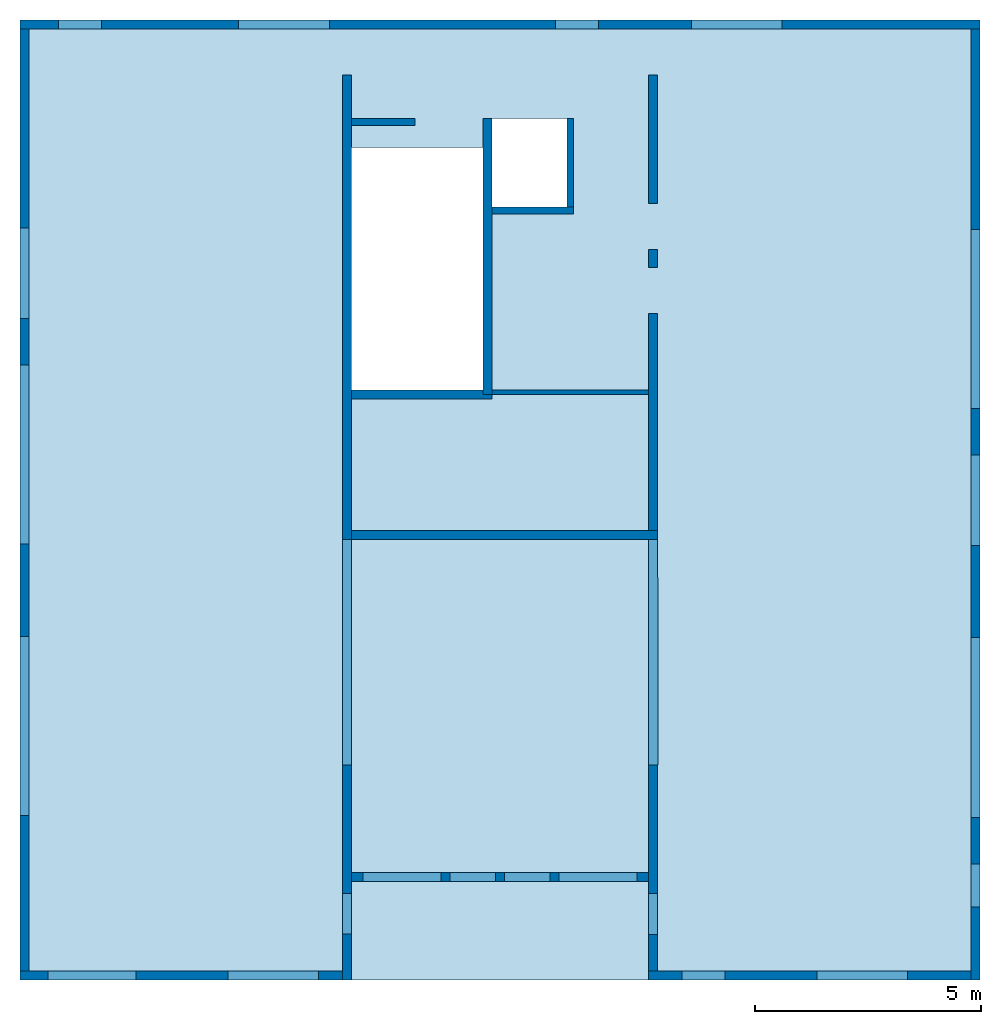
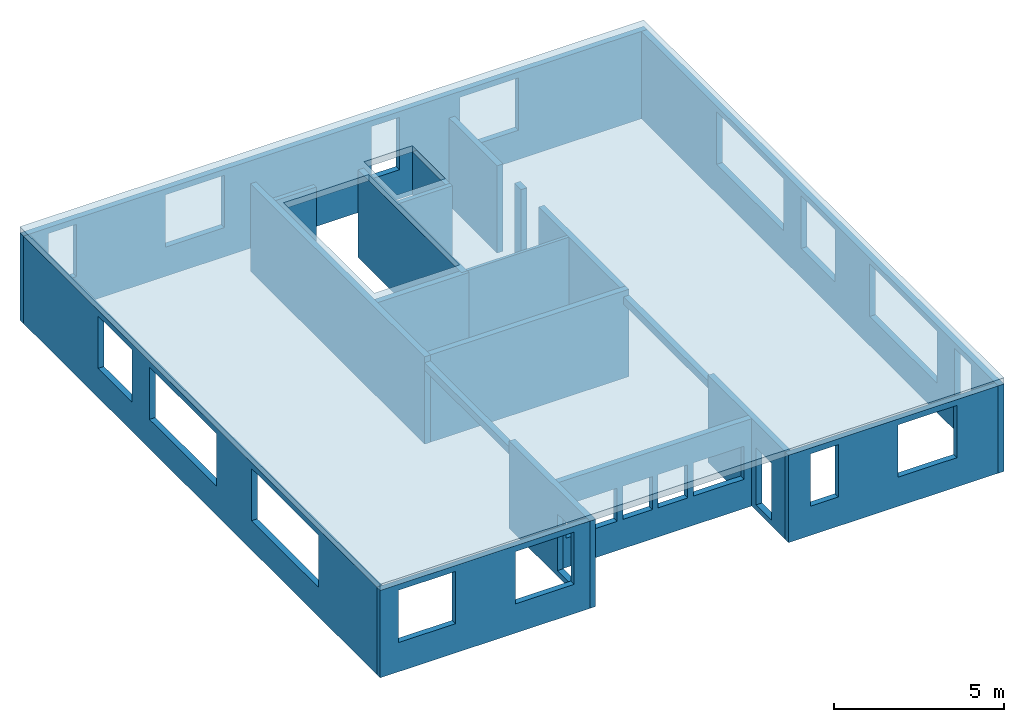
# One storey: 19 walls, 2 beams, 1 slab, 23 openings.
"""IFC2X3 building model written with IfcOpenShell, lengths in millimetres."""

from ifc_helpers import new_model, entity, si_unit, converted_unit, frame, frame_2d, origin, origin_with_axes, place, context, subcontext, project, spatial, polyline, rectangle, outline, extrude, material, layer, layer_set, layer_usage, element, save


model = new_model("IFC2X3")

# Units and contexts
model_context = context("Model", 3, precision=1e-05, world=origin())
body_context = subcontext(model_context, "Body", "Model", "MODEL_VIEW")
ifc_project = project(units=[si_unit("LENGTHUNIT", "METRE", prefix="MILLI"), converted_unit("PLANEANGLEUNIT", "DEGREE", entity("IfcPlaneAngleMeasure", 0.0174532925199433), si_unit("PLANEANGLEUNIT", "RADIAN"), dimensions=[0, 0, 0, 0, 0, 0, 0]), si_unit("AREAUNIT", "SQUARE_METRE"), si_unit("VOLUMEUNIT", "CUBIC_METRE")], contexts=[model_context])

# Building, storey
building_placement = place(None, origin())
building = spatial("IfcBuilding", under=ifc_project, at=building_placement, Name="Bâtiment", CompositionType="ELEMENT")
storey_placement = place(building_placement, frame((0.0, 0.0, 5290.0), z_axis=(0.0, 0.0, 1.0), x_axis=(1.0, 0.0, 0.0)))
storey = spatial("IfcBuildingStorey", under=building, at=storey_placement, Name="1. Etage supérieur", CompositionType="ELEMENT", Elevation=5290.0)

# Beams
ifc_material_1 = material(Name="<Unnamed Material>")
beam_1_placement = place(storey_placement, frame((4880.076271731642, -22184.48916388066, 2460.0), z_axis=(0.0, 0.0, 1.0), x_axis=(0.0001049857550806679, -0.9999999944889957, 0.0)))
element("IfcBeam", 1, at=beam_1_placement, inside=storey, material=ifc_material_1, Name="<Unnamed Element>", context=body_context, shape_type="SweptSolid", body=[
    extrude(rectangle(XDim=270.0, YDim=200.0, at=frame_2d((135.0, -100.0), x_axis=(1.0, 0.0))), frame((0.0, 0.0, 0.0), z_axis=(1.0, 0.0, 0.0), x_axis=(0.0, 0.0, 1.0)), (0.0, 0.0, 1.0), 4978.489400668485),
])
ifc_material_2 = material(Name="<Unnamed Material>")
beam_2_placement = place(storey_placement, frame((11640.23143132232, -22184.15669629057, 2460.0), z_axis=(0.0, 0.0, 1.0), x_axis=(0.0001049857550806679, -0.9999999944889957, 0.0)))
element("IfcBeam", 2, at=beam_2_placement, inside=storey, material=ifc_material_2, Name="<Unnamed Element>", context=body_context, shape_type="SweptSolid", body=[
    extrude(rectangle(XDim=270.0, YDim=199.9999999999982, at=frame_2d((135.0, -99.99999999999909), x_axis=(1.0, 0.0))), frame((0.0, 0.0, 0.0), z_axis=(1.0, 0.0, 0.0), x_axis=(0.0, 0.0, 1.0)), (0.0, 0.0, 1.0), 4978.489400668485),
])

# Slab, openings
ifc_material_3 = material(Name="<Unnamed Material>")
ifc_layer_1 = layer(ifc_material_3, 230.0)
ifc_layer_set_1 = layer_set([ifc_layer_1])
ifc_layer_usage_1 = layer_usage(ifc_layer_set_1, "AXIS3", "POSITIVE", 0.0)
slab_placement = place(storey_placement, frame((-2244.258805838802, -10711.42639159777, 2930.0), z_axis=(0.0, 0.0, 1.0), x_axis=(1.0, 0.0, 0.0)))
slab = element("IfcSlab", 3, at=slab_placement, inside=storey, material=ifc_layer_usage_1, Name="<Unnamed Element>", PredefinedType="FLOOR", context=body_context, shape_type="SweptSolid", body=[
    extrude(rectangle(XDim=21201.40460814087, YDim=21199.82647859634, at=frame_2d((10599.91323929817, -10600.70230407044), x_axis=(0.0, -1.0))), origin_with_axes(), (0.0, 0.0, 1.0), 230.0),
])
opening_1_placement = place(slab_placement, frame((7326.44304845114, -2821.061035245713, 0.0), z_axis=(0.0, 0.0, 1.0), x_axis=(1.0, 0.0, 0.0)))
element("IfcOpeningElement", 4, at=opening_1_placement, cuts=slab, Name="Trémie dans dalle", ObjectType="Opening", context=body_context, shape_type="SweptSolid", body=[
    extrude(rectangle(XDim=5350.0, YDim=2900.0, at=frame_2d((1450.0, -2675.0), x_axis=(0.0, -1.0))), origin_with_axes(), (0.0, 0.0, 1.0), 230.0),
])
opening_2_placement = place(slab_placement, frame((10425.27382917, -2180.71908337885, 0.0), z_axis=(0.0, 0.0, 1.0), x_axis=(1.0, 0.0, 0.0)))
element("IfcOpeningElement", 5, at=opening_2_placement, cuts=slab, Name="Trémie dans dalle", ObjectType="Opening", context=body_context, shape_type="SweptSolid", body=[
    extrude(rectangle(XDim=1949.512348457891, YDim=1651.041602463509, at=frame_2d((825.5208012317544, -974.7561742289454), x_axis=(0.0, -1.0))), origin_with_axes(), (0.0, 0.0, 1.0), 230.0),
])

# Wall, opening
ifc_material_4 = material(Name="<Unnamed Material>")
ifc_layer_2 = layer(ifc_material_4, 199.9999999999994)
ifc_layer_set_2 = layer_set([ifc_layer_2])
ifc_layer_usage_2 = layer_usage(ifc_layer_set_2, "AXIS2", "POSITIVE", -200.0)
wall_1_placement = place(storey_placement, frame((11831.24008624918, -31712.83099973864, -200.0), z_axis=(0.0, 0.0, 1.0), x_axis=(0.001746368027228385, 0.999998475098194, 0.0)))
wall_1 = element("IfcWallStandardCase", 6, at=wall_1_placement, inside=storey, material=ifc_layer_usage_2, Name="<Unnamed Element>", context=body_context, shape_type="SweptSolid", body=[
    extrude(outline(polyline([(0.0, 0.0), (4549.844663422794, 0.0), (4549.844663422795, 199.9999999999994), (-0.3492741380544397, 199.9999999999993), (0.0, 0.0)])), origin_with_axes(), (0.0, 0.0, 1.0), 3140.0),
])
opening_3_placement = place(wall_1_placement, frame((809.378919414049, 6.219469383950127e-13, 200.0), z_axis=(0.0, 1.0, 0.0), x_axis=(0.0, 0.0, 1.0)))
element("IfcOpeningElement", 7, at=opening_3_placement, cuts=wall_1, Name="Baie de porte", ObjectType="Opening", context=body_context, shape_type="SweptSolid", body=[
    extrude(rectangle(XDim=2040.0, YDim=900.0, at=frame_2d((1020.0, 450.0), x_axis=(1.0, 0.0))), origin_with_axes(), (0.0, 0.0, 1.0), 200.0000000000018),
])

# Wall, openings
ifc_material_5 = material(Name="<Unnamed Material>")
ifc_layer_3 = layer(ifc_material_5, 200.0)
ifc_layer_set_3 = layer_set([ifc_layer_3])
ifc_layer_usage_3 = layer_usage(ifc_layer_set_3, "AXIS2", "POSITIVE", -200.0)
wall_2_placement = place(storey_placement, frame((18755.58272271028, -31712.83099973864, -200.0), z_axis=(0.0, 0.0, 1.0), x_axis=(-1.0, 0.0, 0.0)))
wall_2 = element("IfcWallStandardCase", 8, at=wall_2_placement, inside=storey, material=ifc_layer_usage_3, Name="<Unnamed Element>", context=body_context, shape_type="SweptSolid", body=[
    extrude(outline(polyline([(0.0, 0.0), (7124.342941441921, 0.0), (7124.692215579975, 200.0), (0.01505051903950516, 200.0), (0.0, 0.0)])), origin_with_axes(), (0.0, 0.0, 1.0), 3140.0),
])
opening_4_placement = place(wall_2_placement, frame((1399.946910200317, 0.0, 1050.0), z_axis=(0.0, 1.0, 0.0), x_axis=(0.0, 0.0, 1.0)))
element("IfcOpeningElement", 9, at=opening_4_placement, cuts=wall_2, Name="Baie de fenêtre", ObjectType="Opening", context=body_context, shape_type="SweptSolid", body=[
    extrude(rectangle(XDim=1880.0, YDim=2000.0, at=frame_2d((940.0, 1000.0), x_axis=(1.0, 0.0))), origin_with_axes(), (0.0, 0.0, 1.0), 200.0),
])
opening_5_placement = place(wall_2_placement, frame((5429.946910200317, 0.0, 1050.0), z_axis=(0.0, 1.0, 0.0), x_axis=(0.0, 0.0, 1.0)))
element("IfcOpeningElement", 10, at=opening_5_placement, cuts=wall_2, Name="Baie de fenêtre", ObjectType="Opening", context=body_context, shape_type="SweptSolid", body=[
    extrude(rectangle(XDim=1880.0, YDim=950.0, at=frame_2d((940.0, 475.0), x_axis=(1.0, 0.0))), origin_with_axes(), (0.0, 0.0, 1.0), 200.0),
])

ifc_material_6 = material(Name="<Unnamed Material>")
ifc_layer_4 = layer(ifc_material_6, 200.0000000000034)
ifc_layer_set_4 = layer_set([ifc_layer_4])
ifc_layer_usage_4 = layer_usage(ifc_layer_set_4, "AXIS2", "POSITIVE", -200.0)
wall_3_placement = place(storey_placement, frame((18757.14804342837, -10911.94414436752, -200.0), z_axis=(0.0, 0.0, 1.0), x_axis=(-7.525259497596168e-05, -0.9999999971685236, 0.0)))
wall_3 = element("IfcWallStandardCase", 11, at=wall_3_placement, inside=storey, material=ifc_layer_usage_4, Name="<Unnamed Element>", context=body_context, shape_type="SweptSolid", body=[
    extrude(outline(polyline([(0.0, 0.0), (21000.88691483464, 0.0), (21000.8718643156, 200.0000000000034), (-0.01011987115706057, 199.9999999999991), (0.0, 0.0)])), origin_with_axes(), (0.0, 0.0, 1.0), 3140.0),
])
opening_6_placement = place(wall_3_placement, frame((4429.984739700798, -3.375077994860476e-12, 1050.0), z_axis=(0.0, 1.0, 0.0), x_axis=(0.0, 0.0, 1.0)))
element("IfcOpeningElement", 12, at=opening_6_placement, cuts=wall_3, Name="Baie de fenêtre", ObjectType="Opening", context=body_context, shape_type="SweptSolid", body=[
    extrude(rectangle(XDim=1880.0, YDim=3950.000000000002, at=frame_2d((940.0, 1975.000000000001), x_axis=(1.0, 0.0))), origin_with_axes(), (0.0, 0.0, 1.0), 200.0),
])
opening_7_placement = place(wall_3_placement, frame((9410.051711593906, -3.01203506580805e-12, 1050.0), z_axis=(0.0, 1.0, 0.0), x_axis=(0.0, 0.0, 1.0)))
element("IfcOpeningElement", 13, at=opening_7_placement, cuts=wall_3, Name="Baie de fenêtre", ObjectType="Opening", context=body_context, shape_type="SweptSolid", body=[
    extrude(rectangle(XDim=1880.0, YDim=1999.999999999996, at=frame_2d((940.0, 999.9999999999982), x_axis=(1.0, 0.0))), origin_with_axes(), (0.0, 0.0, 1.0), 200.0),
])
opening_8_placement = place(wall_3_placement, frame((13440.05171734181, -7.134071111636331e-12, 1050.0), z_axis=(0.0, 1.0, 0.0), x_axis=(0.0, 0.0, 1.0)))
element("IfcOpeningElement", 14, at=opening_8_placement, cuts=wall_3, Name="Baie de fenêtre", ObjectType="Opening", context=body_context, shape_type="SweptSolid", body=[
    extrude(rectangle(XDim=1880.0, YDim=3970.0, at=frame_2d((940.0, 1985.0), x_axis=(1.0, 0.0))), origin_with_axes(), (0.0, 0.0, 1.0), 200.0000000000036),
])
opening_9_placement = place(wall_3_placement, frame((18440.01634862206, -6.124434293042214e-12, 1050.0), z_axis=(0.0, 1.0, 0.0), x_axis=(0.0, 0.0, 1.0)))
element("IfcOpeningElement", 15, at=opening_9_placement, cuts=wall_3, Name="Baie de fenêtre", ObjectType="Opening", context=body_context, shape_type="SweptSolid", body=[
    extrude(rectangle(XDim=1880.0, YDim=949.9999999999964, at=frame_2d((940.0, 474.9999999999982), x_axis=(1.0, 0.0))), origin_with_axes(), (0.0, 0.0, 1.0), 200.0000000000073),
])

# Walls
ifc_material_7 = material(Name="<Unnamed Material>")
ifc_layer_5 = layer(ifc_material_7, 200.0)
ifc_layer_set_5 = layer_set([ifc_layer_5])
ifc_layer_usage_5 = layer_usage(ifc_layer_set_5, "AXIS2", "POSITIVE", -200.0)
wall_4_placement = place(storey_placement, frame((11632.34332290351, -15783.59401507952, -200.0), z_axis=(0.0, 0.0, 1.0), x_axis=(0.0, -1.0, 0.0)))
element("IfcWallStandardCase", 16, at=wall_4_placement, inside=storey, material=ifc_layer_usage_5, Name="<Unnamed Element>", context=body_context, shape_type="SweptSolid", body=[
    extrude(rectangle(XDim=391.5487979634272, YDim=200.0, at=frame_2d((195.7743989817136, 100.0), x_axis=(1.0, 0.0))), origin_with_axes(), (0.0, 0.0, 1.0), 3140.0),
])
ifc_material_8 = material(Name="<Unnamed Material>")
ifc_layer_6 = layer(ifc_material_8, 200.0)
ifc_layer_set_6 = layer_set([ifc_layer_6])
ifc_layer_usage_6 = layer_usage(ifc_layer_set_6, "AXIS2", "POSITIVE", -200.0)
wall_5_placement = place(storey_placement, frame((11831.34332290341, -21983.46924332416, -200.0), z_axis=(0.0, 0.0, 1.0), x_axis=(2.126507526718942e-14, 1.0, 0.0)))
element("IfcWallStandardCase", 17, at=wall_5_placement, inside=storey, material=ifc_layer_usage_6, Name="<Unnamed Element>", context=body_context, shape_type="SweptSolid", body=[
    extrude(rectangle(XDim=4790.17380934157, YDim=200.0, at=frame_2d((2395.086904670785, 100.0), x_axis=(1.0, 0.0))), origin_with_axes(), (0.0, 0.0, 1.0), 3140.0),
])
ifc_material_9 = material(Name="<Unnamed Material>")
ifc_layer_7 = layer(ifc_material_9, 200.0)
ifc_layer_set_7 = layer_set([ifc_layer_7])
ifc_layer_usage_7 = layer_usage(ifc_layer_set_7, "AXIS2", "POSITIVE", -200.0)
wall_6_placement = place(storey_placement, frame((11632.34332290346, -11931.16432706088, -200.0), z_axis=(0.0, 0.0, 1.0), x_axis=(1.926780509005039e-14, -0.9999999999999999, 0.0)))
element("IfcWallStandardCase", 18, at=wall_6_placement, inside=storey, material=ifc_layer_usage_7, Name="<Unnamed Element>", context=body_context, shape_type="SweptSolid", body=[
    extrude(rectangle(XDim=2832.169095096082, YDim=200.0, at=frame_2d((1416.084547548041, 99.99999999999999), x_axis=(1.0, 0.0))), origin_with_axes(), (0.0, 0.0, 1.0), 3140.0),
])
ifc_material_10 = material(Name="<Unnamed Material>")
ifc_layer_8 = layer(ifc_material_10, 100.0)
ifc_layer_set_8 = layer_set([ifc_layer_8])
ifc_layer_usage_8 = layer_usage(ifc_layer_set_8, "AXIS2", "POSITIVE", -100.0)
wall_7_placement = place(storey_placement, frame((8181.015023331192, -18984.53276778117, -200.0), z_axis=(0.0, 0.0, 1.0), x_axis=(1.0, -3.690351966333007e-14, 0.0)))
element("IfcWallStandardCase", 19, at=wall_7_placement, inside=storey, material=ifc_layer_usage_8, Name="<Unnamed Element>", context=body_context, shape_type="SweptSolid", body=[
    extrude(rectangle(XDim=3450.328299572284, YDim=100.0, at=frame_2d((1725.164149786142, 50.0), x_axis=(1.0, 0.0))), origin_with_axes(), (0.0, 0.0, 1.0), 3140.0),
])
ifc_material_11 = material(Name="<Unnamed Material>")
ifc_layer_9 = layer(ifc_material_11, 200.0)
ifc_layer_set_9 = layer_set([ifc_layer_9])
ifc_layer_usage_9 = layer_usage(ifc_layer_set_9, "AXIS2", "POSITIVE", -200.0)
wall_8_placement = place(storey_placement, frame((5082.184242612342, -22183.46924332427, -200.0), z_axis=(0.0, 0.0, 1.0), x_axis=(1.0, 1.77852550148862e-14, 0.0)))
element("IfcWallStandardCase", 20, at=wall_8_placement, inside=storey, material=ifc_layer_usage_9, Name="<Unnamed Element>", context=body_context, shape_type="SweptSolid", body=[
    extrude(rectangle(XDim=6750.15908029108, YDim=200.0, at=frame_2d((3375.07954014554, 100.0), x_axis=(1.0, 0.0))), origin_with_axes(), (0.0, 0.0, 1.0), 3140.0),
])
ifc_material_12 = material(Name="<Unnamed Material>")
ifc_layer_10 = layer(ifc_material_12, 200.0)
ifc_layer_set_10 = layer_set([ifc_layer_10])
ifc_layer_usage_10 = layer_usage(ifc_layer_set_10, "AXIS2", "POSITIVE", -200.0)
wall_9_placement = place(storey_placement, frame((4882.184242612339, -11931.16432706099, -200.0), z_axis=(0.0, 0.0, 1.0), x_axis=(0.0, -1.0, 0.0)))
element("IfcWallStandardCase", 21, at=wall_9_placement, inside=storey, material=ifc_layer_usage_10, Name="<Unnamed Element>", context=body_context, shape_type="SweptSolid", body=[
    extrude(rectangle(XDim=10253.30491626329, YDim=200.0, at=frame_2d((5126.652458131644, 100.0), x_axis=(1.0, 0.0))), origin_with_axes(), (0.0, 0.0, 1.0), 3140.0),
])
ifc_material_13 = material(Name="<Unnamed Material>")
ifc_layer_11 = layer(ifc_material_13, 200.0000000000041)
ifc_layer_set_11 = layer_set([ifc_layer_11])
ifc_layer_usage_11 = layer_usage(ifc_layer_set_11, "AXIS2", "POSITIVE", -200.0)
wall_10_placement = place(storey_placement, frame((5082.184242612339, -19082.48747040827, -200.0), z_axis=(0.0, 0.0, 1.0), x_axis=(0.9999997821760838, -0.0006600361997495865, 0.0)))
element("IfcWallStandardCase", 22, at=wall_10_placement, inside=storey, material=ifc_layer_usage_11, Name="<Unnamed Element>", context=body_context, shape_type="SweptSolid", body=[
    extrude(outline(polyline([(0.0, 0.0), (3098.831455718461, 0.0), (3098.765452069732, 100.0000217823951), (2898.765495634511, 99.86801454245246), (2898.69940488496, 200.0000000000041), (-0.1320072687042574, 199.9999999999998), (0.0, 0.0)])), origin_with_axes(), (0.0, 0.0, 1.0), 3140.0),
])
ifc_material_14 = material(Name="<Unnamed Material>")
ifc_layer_12 = layer(ifc_material_14, 150.0)
ifc_layer_set_12 = layer_set([ifc_layer_12])
ifc_layer_usage_12 = layer_usage(ifc_layer_set_12, "AXIS2", "POSITIVE", -150.0)
wall_11_placement = place(storey_placement, frame((5082.184242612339, -13042.14547497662, -200.0), z_axis=(0.0, 0.0, 1.0), x_axis=(1.0, 0.0, 0.0)))
element("IfcWallStandardCase", 23, at=wall_11_placement, inside=storey, material=ifc_layer_usage_12, Name="<Unnamed Element>", context=body_context, shape_type="SweptSolid", body=[
    extrude(rectangle(XDim=1399.124954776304, YDim=150.0, at=frame_2d((699.5624773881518, 75.0), x_axis=(1.0, 0.0))), origin_with_axes(), (0.0, 0.0, 1.0), 3140.0),
])
ifc_material_15 = material(Name="<Unnamed Material>")
ifc_layer_13 = layer(ifc_material_15, 200.0)
ifc_layer_set_13 = layer_set([ifc_layer_13])
ifc_layer_usage_13 = layer_usage(ifc_layer_set_13, "AXIS2", "POSITIVE", -200.0)
wall_12_placement = place(storey_placement, frame((8181.015023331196, -18984.53276778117, -200.0), z_axis=(0.0, 0.0, 1.0), x_axis=(0.0, 1.0, 0.0)))
element("IfcWallStandardCase", 24, at=wall_12_placement, inside=storey, material=ifc_layer_usage_13, Name="<Unnamed Element>", context=body_context, shape_type="SweptSolid", body=[
    extrude(rectangle(XDim=6092.387292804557, YDim=200.0, at=frame_2d((3046.193646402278, 100.0), x_axis=(1.0, 0.0))), origin_with_axes(), (0.0, 0.0, 1.0), 3140.0),
])
ifc_material_16 = material(Name="<Unnamed Material>")
ifc_layer_14 = layer(ifc_material_16, 150.0)
ifc_layer_set_14 = layer_set([ifc_layer_14])
ifc_layer_usage_14 = layer_usage(ifc_layer_set_14, "AXIS2", "POSITIVE", -150.0)
wall_13_placement = place(storey_placement, frame((9832.05662579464, -12892.1454749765, -200.0), z_axis=(0.0, 0.0, 1.0), x_axis=(3.358974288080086e-14, -0.9999999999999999, 0.0)))
element("IfcWallStandardCase", 25, at=wall_13_placement, inside=storey, material=ifc_layer_usage_14, Name="<Unnamed Element>", context=body_context, shape_type="SweptSolid", body=[
    extrude(rectangle(XDim=1949.512348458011, YDim=150.0, at=frame_2d((974.7561742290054, 74.99999999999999), x_axis=(1.0, 0.0))), origin_with_axes(), (0.0, 0.0, 1.0), 3140.0),
])
ifc_material_17 = material(Name="<Unnamed Material>")
ifc_layer_15 = layer(ifc_material_17, 150.0)
ifc_layer_set_15 = layer_set([ifc_layer_15])
ifc_layer_usage_15 = layer_usage(ifc_layer_set_15, "AXIS2", "POSITIVE", -150.0)
wall_14_placement = place(storey_placement, frame((8181.015023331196, -14991.65782343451, -200.0), z_axis=(0.0, 0.0, 1.0), x_axis=(1.0, 2.019930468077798e-15, 0.0)))
element("IfcWallStandardCase", 26, at=wall_14_placement, inside=storey, material=ifc_layer_usage_15, Name="<Unnamed Element>", context=body_context, shape_type="SweptSolid", body=[
    extrude(rectangle(XDim=1801.041602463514, YDim=150.0, at=frame_2d((900.5208012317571, 75.0), x_axis=(1.0, 0.0))), origin_with_axes(), (0.0, 0.0, 1.0), 3140.0),
])

# Wall, openings
ifc_material_18 = material(Name="<Unnamed Material>")
ifc_layer_16 = layer(ifc_material_18, 200.0000000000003)
ifc_layer_set_16 = layer_set([ifc_layer_16])
ifc_layer_usage_16 = layer_usage(ifc_layer_set_16, "AXIS2", "POSITIVE", -200.0)
wall_15_placement = place(storey_placement, frame((-2043.73047238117, -31711.24632934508, -200.0), z_axis=(0.0, 0.0, 1.0), x_axis=(-2.515894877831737e-05, 0.9999999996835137, 0.0)))
wall_15 = element("IfcWallStandardCase", 27, at=wall_15_placement, inside=storey, material=ifc_layer_usage_16, Name="<Unnamed Element>", context=body_context, shape_type="SweptSolid", body=[
    extrude(outline(polyline([(0.0, 0.0), (20799.81501349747, 0.0), (20799.8249759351, 200.0000000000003), (0.005662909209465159, 200.0000000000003), (0.0, 0.0)])), origin_with_axes(), (0.0, 0.0, 1.0), 3140.0),
])
opening_10_placement = place(wall_15_placement, frame((3430.000001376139, -3.205907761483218e-13, 1050.0), z_axis=(0.0, 1.0, 0.0), x_axis=(0.0, 0.0, 1.0)))
element("IfcOpeningElement", 28, at=opening_10_placement, cuts=wall_15, Name="Baie de fenêtre", ObjectType="Opening", context=body_context, shape_type="SweptSolid", body=[
    extrude(rectangle(XDim=1880.0, YDim=3950.0, at=frame_2d((940.0, 1975.0), x_axis=(1.0, 0.0))), origin_with_axes(), (0.0, 0.0, 1.0), 200.0000000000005),
])
opening_11_placement = place(wall_15_placement, frame((9430.000002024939, -9.548750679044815e-13, 1050.0), z_axis=(0.0, 1.0, 0.0), x_axis=(0.0, 0.0, 1.0)))
element("IfcOpeningElement", 29, at=opening_11_placement, cuts=wall_15, Name="Baie de fenêtre", ObjectType="Opening", context=body_context, shape_type="SweptSolid", body=[
    extrude(rectangle(XDim=1880.0, YDim=3949.999999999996, at=frame_2d((940.0, 1974.999999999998), x_axis=(1.0, 0.0))), origin_with_axes(), (0.0, 0.0, 1.0), 200.0000000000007),
])
opening_12_placement = place(wall_15_placement, frame((14409.99497056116, -1.507682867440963e-12, 1050.0), z_axis=(0.0, 1.0, 0.0), x_axis=(0.0, 0.0, 1.0)))
element("IfcOpeningElement", 30, at=opening_12_placement, cuts=wall_15, Name="Baie de fenêtre", ObjectType="Opening", context=body_context, shape_type="SweptSolid", body=[
    extrude(rectangle(XDim=1880.0, YDim=2000.000000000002, at=frame_2d((940.0, 1000.000000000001), x_axis=(1.0, 0.0))), origin_with_axes(), (0.0, 0.0, 1.0), 200.0000000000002),
])

# Wall, opening
ifc_material_19 = material(Name="<Unnamed Material>")
ifc_layer_17 = layer(ifc_material_19, 200.0000000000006)
ifc_layer_set_17 = layer_set([ifc_layer_17])
ifc_layer_usage_17 = layer_usage(ifc_layer_set_17, "AXIS2", "POSITIVE", -200.0)
wall_16_placement = place(storey_placement, frame((4880.598942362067, -27162.98002316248, -200.0), z_axis=(0.0, 0.0, 1.0), x_axis=(0.0001124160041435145, -0.9999999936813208, 0.0)))
wall_16 = element("IfcWallStandardCase", 31, at=wall_16_placement, inside=storey, material=ifc_layer_usage_17, Name="<Unnamed Element>", context=body_context, shape_type="SweptSolid", body=[
    extrude(outline(polyline([(0.0, 0.0), (4748.288188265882, 0.0), (4748.311302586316, 200.0000000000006), (7.111082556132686e-13, 200.0000000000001), (0.0, 0.0)])), origin_with_axes(), (0.0, 0.0, 1.0), 3140.0),
])
opening_13_placement = place(wall_16_placement, frame((2836.341018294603, 1.119437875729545e-12, 200.0), z_axis=(0.0, 1.0, 0.0), x_axis=(0.0, 0.0, 1.0)))
element("IfcOpeningElement", 32, at=opening_13_placement, cuts=wall_16, Name="Baie de porte", ObjectType="Opening", context=body_context, shape_type="SweptSolid", body=[
    extrude(rectangle(XDim=2040.0, YDim=900.0, at=frame_2d((1020.0, 450.0), x_axis=(1.0, 0.0))), origin_with_axes(), (0.0, 0.0, 1.0), 200.0),
])

# Wall, openings
ifc_material_20 = material(Name="<Unnamed Material>")
ifc_layer_18 = layer(ifc_material_20, 200.0)
ifc_layer_set_18 = layer_set([ifc_layer_18])
ifc_layer_usage_18 = layer_usage(ifc_layer_set_18, "AXIS2", "POSITIVE", -200.0)
wall_17_placement = place(storey_placement, frame((11635.03242323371, -29541.10309198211, -200.0), z_axis=(0.0, 0.0, 1.0), x_axis=(-0.9999999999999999, 2.109241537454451e-14, 0.0)))
wall_17 = element("IfcWallStandardCase", 33, at=wall_17_placement, inside=storey, material=ifc_layer_usage_18, Name="<Unnamed Element>", context=body_context, shape_type="SweptSolid", body=[
    extrude(outline(polyline([(0.0, 0.0), (6554.166140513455, 0.0), (6554.143657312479, 200.0), (0.3492741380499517, 200.0), (0.0, 0.0)])), origin_with_axes(), (0.0, 0.0, 1.0), 3140.0),
])
opening_14_placement = place(wall_17_placement, frame((4578.082568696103, 1.70437638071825e-12, 1050.0), z_axis=(0.0, 1.0, 0.0), x_axis=(0.0, 0.0, 1.0)))
element("IfcOpeningElement", 34, at=opening_14_placement, cuts=wall_17, Name="Baie de fenêtre", ObjectType="Opening", context=body_context, shape_type="SweptSolid", body=[
    extrude(rectangle(XDim=1190.0, YDim=1725.0, at=frame_2d((595.0, 862.5), x_axis=(1.0, 0.0))), origin_with_axes(), (0.0, 0.0, 1.0), 200.0),
])
opening_15_placement = place(wall_17_placement, frame((3379.014454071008, 4.635100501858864e-12, 1050.0), z_axis=(0.0, 1.0, 0.0), x_axis=(0.0, 0.0, 1.0)))
element("IfcOpeningElement", 35, at=opening_15_placement, cuts=wall_17, Name="Baie de fenêtre", ObjectType="Opening", context=body_context, shape_type="SweptSolid", body=[
    extrude(rectangle(XDim=1190.0, YDim=999.9999999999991, at=frame_2d((595.0, 499.9999999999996), x_axis=(1.0, 0.0))), origin_with_axes(), (0.0, 0.0, 1.0), 199.9999999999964),
])
opening_16_placement = place(wall_17_placement, frame((2178.844158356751, 3.903787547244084e-12, 1050.0), z_axis=(0.0, 1.0, 0.0), x_axis=(0.0, 0.0, 1.0)))
element("IfcOpeningElement", 36, at=opening_16_placement, cuts=wall_17, Name="Baie de fenêtre", ObjectType="Opening", context=body_context, shape_type="SweptSolid", body=[
    extrude(rectangle(XDim=1190.0, YDim=1000.0, at=frame_2d((595.0, 500.0), x_axis=(1.0, 0.0))), origin_with_axes(), (0.0, 0.0, 1.0), 199.9999999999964),
])
opening_17_placement = place(wall_17_placement, frame((253.6717094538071, 1.899135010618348e-12, 1050.0), z_axis=(0.0, 1.0, 0.0), x_axis=(0.0, 0.0, 1.0)))
element("IfcOpeningElement", 37, at=opening_17_placement, cuts=wall_17, Name="Baie de fenêtre", ObjectType="Opening", context=body_context, shape_type="SweptSolid", body=[
    extrude(rectangle(XDim=1190.0, YDim=1725.0, at=frame_2d((595.0, 862.5), x_axis=(1.0, 0.0))), origin_with_axes(), (0.0, 0.0, 1.0), 200.0),
])

ifc_material_21 = material(Name="<Unnamed Material>")
ifc_layer_19 = layer(ifc_material_21, 199.9999999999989)
ifc_layer_set_19 = layer_set([ifc_layer_19])
ifc_layer_usage_19 = layer_usage(ifc_layer_set_19, "AXIS2", "POSITIVE", -200.0)
wall_18_placement = place(storey_placement, frame((4881.110242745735, -31711.26818135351, -200.0), z_axis=(0.0, 0.0, 1.0), x_axis=(-0.9999999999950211, 3.155597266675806e-06, 0.0)))
wall_18 = element("IfcWallStandardCase", 38, at=wall_18_placement, inside=storey, material=ifc_layer_usage_19, Name="<Unnamed Element>", context=body_context, shape_type="SweptSolid", body=[
    extrude(outline(polyline([(0.0, 0.0), (7124.840715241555, 3.469446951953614e-18), (7124.835052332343, 199.9999999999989), (-0.02311432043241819, 200.000000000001), (0.0, 0.0)])), origin_with_axes(), (0.0, 0.0, 1.0), 3140.0),
])
opening_18_placement = place(wall_18_placement, frame((529.9995361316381, -7.321775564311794e-13, 1050.0), z_axis=(0.0, 1.0, 0.0), x_axis=(0.0, 0.0, 1.0)))
element("IfcOpeningElement", 39, at=opening_18_placement, cuts=wall_18, Name="Baie de fenêtre", ObjectType="Opening", context=body_context, shape_type="SweptSolid", body=[
    extrude(rectangle(XDim=1880.0, YDim=1999.999999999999, at=frame_2d((940.0, 999.9999999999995), x_axis=(1.0, 0.0))), origin_with_axes(), (0.0, 0.0, 1.0), 200.0000000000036),
])
opening_19_placement = place(wall_18_placement, frame((4559.999536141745, 3.519773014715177e-12, 1050.0), z_axis=(0.0, 1.0, 0.0), x_axis=(0.0, 0.0, 1.0)))
element("IfcOpeningElement", 40, at=opening_19_placement, cuts=wall_18, Name="Baie de fenêtre", ObjectType="Opening", context=body_context, shape_type="SweptSolid", body=[
    extrude(rectangle(XDim=1880.0, YDim=1950.0, at=frame_2d((940.0, 974.9999999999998), x_axis=(1.0, 0.0))), origin_with_axes(), (0.0, 0.0, 1.0), 200.0),
])

ifc_material_22 = material(Name="<Unnamed Material>")
ifc_layer_20 = layer(ifc_material_22, 200.0000000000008)
ifc_layer_set_20 = layer_set([ifc_layer_20])
ifc_layer_usage_20 = layer_usage(ifc_layer_set_20, "AXIS2", "POSITIVE", -200.0)
wall_19_placement = place(storey_placement, frame((-2244.25377404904, -10911.4263917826, -200.0), z_axis=(0.0, 0.0, 1.0), x_axis=(0.9999999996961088, -2.465323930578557e-05, 0.0)))
wall_19 = element("IfcWallStandardCase", 41, at=wall_19_placement, inside=storey, material=ifc_layer_usage_20, Name="<Unnamed Element>", context=body_context, shape_type="SweptSolid", body=[
    extrude(outline(polyline([(0.0, 0.0), (21201.40182411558, 0.0), (21201.41194398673, 200.0000000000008), (-0.009962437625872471, 200.0000000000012), (0.0, 0.0)])), origin_with_axes(), (0.0, 0.0, 1.0), 3140.0),
])
opening_20_placement = place(wall_19_placement, frame((14829.99004062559, 1.308381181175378e-11, 1050.0), z_axis=(0.0, 1.0, 0.0), x_axis=(0.0, 0.0, 1.0)))
element("IfcOpeningElement", 42, at=opening_20_placement, cuts=wall_19, Name="Baie de fenêtre", ObjectType="Opening", context=body_context, shape_type="SweptSolid", body=[
    extrude(rectangle(XDim=1880.0, YDim=2000.0, at=frame_2d((940.0, 1000.0), x_axis=(1.0, 0.0))), origin_with_axes(), (0.0, 0.0, 1.0), 200.0),
])
opening_21_placement = place(wall_19_placement, frame((11829.99004000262, 1.045841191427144e-11, 1050.0), z_axis=(0.0, 1.0, 0.0), x_axis=(0.0, 0.0, 1.0)))
element("IfcOpeningElement", 43, at=opening_21_placement, cuts=wall_19, Name="Baie de fenêtre", ObjectType="Opening", context=body_context, shape_type="SweptSolid", body=[
    extrude(rectangle(XDim=1880.0, YDim=950.0, at=frame_2d((940.0, 475.0), x_axis=(1.0, 0.0))), origin_with_axes(), (0.0, 0.0, 1.0), 199.9999999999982),
])
opening_22_placement = place(wall_19_placement, frame((4829.990038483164, 3.921724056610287e-12, 1050.0), z_axis=(0.0, 1.0, 0.0), x_axis=(0.0, 0.0, 1.0)))
element("IfcOpeningElement", 44, at=opening_22_placement, cuts=wall_19, Name="Baie de fenêtre", ObjectType="Opening", context=body_context, shape_type="SweptSolid", body=[
    extrude(rectangle(XDim=1880.0, YDim=2000.000000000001, at=frame_2d((940.0, 1000.000000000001), x_axis=(1.0, 0.0))), origin_with_axes(), (0.0, 0.0, 1.0), 200.0000000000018),
])
opening_23_placement = place(wall_19_placement, frame((849.9900375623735, 8.663417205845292e-13, 1050.0), z_axis=(0.0, 1.0, 0.0), x_axis=(0.0, 0.0, 1.0)))
element("IfcOpeningElement", 45, at=opening_23_placement, cuts=wall_19, Name="Baie de fenêtre", ObjectType="Opening", context=body_context, shape_type="SweptSolid", body=[
    extrude(rectangle(XDim=1880.0, YDim=950.0000000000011, at=frame_2d((940.0, 475.0000000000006), x_axis=(1.0, 0.0))), origin_with_axes(), (0.0, 0.0, 1.0), 199.9999999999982),
])

save(model, "model.ifc")
